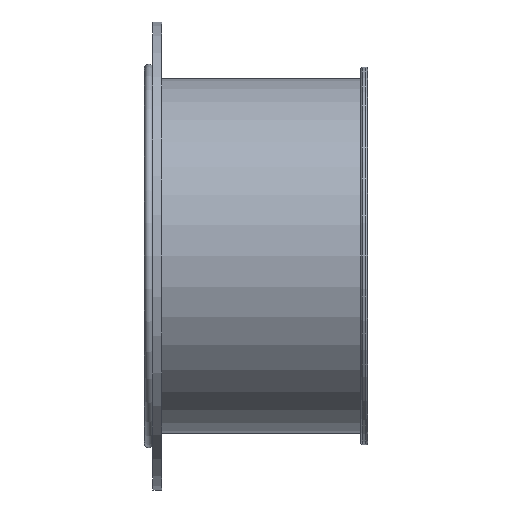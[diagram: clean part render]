
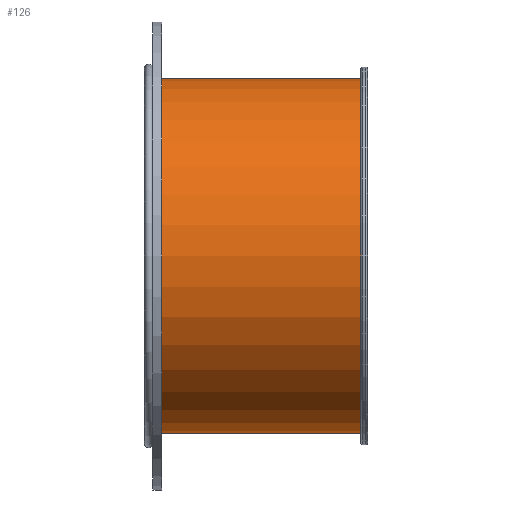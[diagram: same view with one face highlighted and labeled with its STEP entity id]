
A CAD part, left-side view. The second image highlights one B-rep face of the part: STEP entity #126.
In plain terms, the highlighted cylindrical face has radius 80.8 mm (diameter 161.6 mm), a full revolution.
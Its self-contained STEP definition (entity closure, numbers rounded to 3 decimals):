
#108=CYLINDRICAL_SURFACE('',#500,80.8);
#126=ADVANCED_FACE('',(#171,#172),#108,.T.);
#171=FACE_BOUND('',#243,.T.);
#172=FACE_BOUND('',#244,.T.);
#243=EDGE_LOOP('',(#315));
#244=EDGE_LOOP('',(#316));
#315=ORIENTED_EDGE('',*,*,#421,.T.);
#316=ORIENTED_EDGE('',*,*,#420,.F.);
#384=VERTEX_POINT('',#706);
#385=VERTEX_POINT('',#709);
#420=EDGE_CURVE('',#384,#384,#456,.T.);
#421=EDGE_CURVE('',#385,#385,#457,.T.);
#456=CIRCLE('',#497,80.8);
#457=CIRCLE('',#499,80.8);
#497=AXIS2_PLACEMENT_3D('',#705,#576,#577);
#499=AXIS2_PLACEMENT_3D('',#708,#580,#581);
#500=AXIS2_PLACEMENT_3D('',#710,#582,#583);
#576=DIRECTION('',(0.,1.,0.));
#577=DIRECTION('',(1.,0.,0.));
#580=DIRECTION('',(0.,1.,0.));
#581=DIRECTION('',(1.,0.,0.));
#582=DIRECTION('',(0.,1.,0.));
#583=DIRECTION('',(1.,0.,0.));
#705=CARTESIAN_POINT('',(0.,99.2,0.));
#706=CARTESIAN_POINT('',(80.8,99.2,0.));
#708=CARTESIAN_POINT('',(0.,3.,0.));
#709=CARTESIAN_POINT('',(80.8,3.,0.));
#710=CARTESIAN_POINT('',(0.,-192.076,0.));
